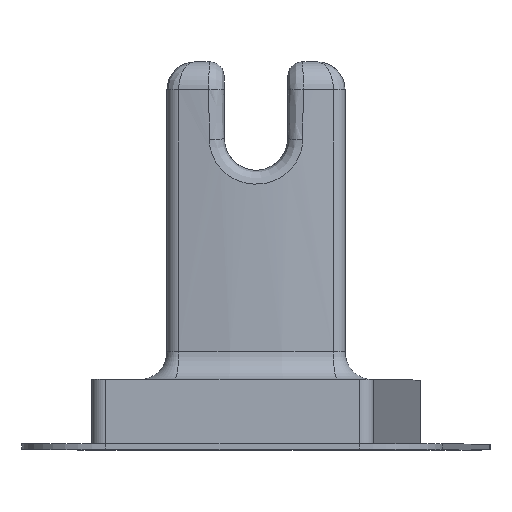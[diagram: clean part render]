
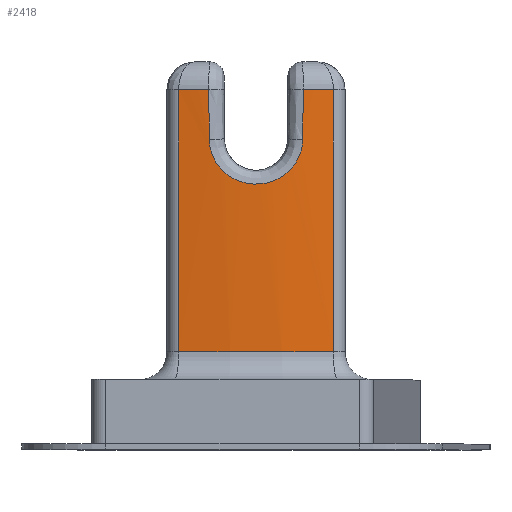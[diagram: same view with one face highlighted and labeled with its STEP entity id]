
A CAD part, top view. The second image highlights one B-rep face of the part: STEP entity #2418.
In plain terms, the highlighted cylindrical face has radius 34.167 mm (diameter 68.334 mm), a partial arc.
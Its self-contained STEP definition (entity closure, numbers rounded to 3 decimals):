
#103=CARTESIAN_POINT('',(3.38,3.5,3.332));
#104=CARTESIAN_POINT('',(3.369,2.324,3.333));
#105=CARTESIAN_POINT('',(3.358,1.148,3.335));
#106=CARTESIAN_POINT('',(3.348,-0.028,3.336));
#108=CARTESIAN_POINT('',(0.,3.5,-30.667));
#109=DIRECTION('',(0.,1.,0.));
#110=DIRECTION('',(0.099,0.,0.995));
#111=AXIS2_PLACEMENT_3D('',#108,#109,#110);
#113=DIRECTION('',(0.,-1.,0.));
#114=VECTOR('',#113,18.75);
#115=CARTESIAN_POINT('',(5.537,3.5,3.048));
#116=LINE('',#115,#114);
#117=CARTESIAN_POINT('',(0.,-15.25,-30.667));
#118=DIRECTION('',(0.,-1.,0.));
#119=DIRECTION('',(0.162,0.,0.987));
#120=AXIS2_PLACEMENT_3D('',#117,#118,#119);
#122=DIRECTION('',(0.,-1.,0.));
#123=VECTOR('',#122,18.75);
#124=CARTESIAN_POINT('',(-5.537,3.5,3.048));
#125=LINE('',#124,#123);
#126=CARTESIAN_POINT('',(0.,3.5,-30.667));
#127=DIRECTION('',(0.,1.,0.));
#128=DIRECTION('',(-0.162,0.,0.987));
#129=AXIS2_PLACEMENT_3D('',#126,#127,#128);
#131=CARTESIAN_POINT('',(-3.348,-0.028,
3.336));
#132=CARTESIAN_POINT('',(-3.358,1.148,3.335));
#133=CARTESIAN_POINT('',(-3.369,2.324,3.333));
#134=CARTESIAN_POINT('',(-3.38,3.5,3.332));
#136=CARTESIAN_POINT('',(3.348,-0.028,3.336));
#137=CARTESIAN_POINT('',(3.347,-0.156,3.336));
#138=CARTESIAN_POINT('',(3.329,-0.409,3.337));
#139=CARTESIAN_POINT('',(3.256,-0.787,3.345));
#140=CARTESIAN_POINT('',(3.137,-1.157,3.356));
#141=CARTESIAN_POINT('',(2.973,-1.51,3.371));
#142=CARTESIAN_POINT('',(2.767,-1.843,3.388));
#143=CARTESIAN_POINT('',(2.521,-2.151,3.407));
#144=CARTESIAN_POINT('',(2.235,-2.43,3.427));
#145=CARTESIAN_POINT('',(1.917,-2.674,3.447));
#146=CARTESIAN_POINT('',(1.57,-2.88,3.465));
#147=CARTESIAN_POINT('',(1.199,-3.043,3.48));
#148=CARTESIAN_POINT('',(0.809,-3.162,3.491));
#149=CARTESIAN_POINT('',(0.407,-3.234,3.498));
#150=CARTESIAN_POINT('',(-0.001,-3.258,
3.501));
#151=CARTESIAN_POINT('',(-0.409,-3.234,
3.498));
#152=CARTESIAN_POINT('',(-0.81,-3.162,
3.491));
#153=CARTESIAN_POINT('',(-1.198,-3.043,3.48));
#154=CARTESIAN_POINT('',(-1.569,-2.88,3.465));
#155=CARTESIAN_POINT('',(-1.916,-2.675,3.447));
#156=CARTESIAN_POINT('',(-2.233,-2.432,3.427));
#157=CARTESIAN_POINT('',(-2.516,-2.155,3.408));
#158=CARTESIAN_POINT('',(-2.762,-1.85,3.388));
#159=CARTESIAN_POINT('',(-2.969,-1.519,3.371));
#160=CARTESIAN_POINT('',(-3.133,-1.167,3.356));
#161=CARTESIAN_POINT('',(-3.253,-0.8,
3.345));
#162=CARTESIAN_POINT('',(-3.328,-0.416,
3.338));
#163=CARTESIAN_POINT('',(-3.347,-0.159,
3.336));
#164=CARTESIAN_POINT('',(-3.348,-0.028,
3.336));
#1842=VERTEX_POINT('',#103);
#1843=VERTEX_POINT('',#106);
#1846=VERTEX_POINT('',#164);
#1848=VERTEX_POINT('',#134);
#1858=CARTESIAN_POINT('',(-5.537,3.5,3.048));
#1859=VERTEX_POINT('',#1858);
#1862=CARTESIAN_POINT('',(5.537,3.5,3.048));
#1863=VERTEX_POINT('',#1862);
#1868=CARTESIAN_POINT('',(-5.537,-15.25,3.048));
#1869=VERTEX_POINT('',#1868);
#1870=CARTESIAN_POINT('',(5.537,-15.25,3.048));
#1871=VERTEX_POINT('',#1870);
#2396=CARTESIAN_POINT('',(0.,-22.25,-30.667));
#2397=DIRECTION('',(0.,1.,0.));
#2398=DIRECTION('',(0.,0.,-1.));
#2399=AXIS2_PLACEMENT_3D('',#2396,#2397,#2398);
#2400=CYLINDRICAL_SURFACE('',#2399,34.167);
#2401=ORIENTED_EDGE('',*,*,#2387,.F.);
#2403=ORIENTED_EDGE('',*,*,#2402,.T.);
#2405=ORIENTED_EDGE('',*,*,#2404,.T.);
#2407=ORIENTED_EDGE('',*,*,#2406,.T.);
#2409=ORIENTED_EDGE('',*,*,#2408,.F.);
#2411=ORIENTED_EDGE('',*,*,#2410,.T.);
#2413=ORIENTED_EDGE('',*,*,#2412,.F.);
#2415=ORIENTED_EDGE('',*,*,#2414,.F.);
#2416=EDGE_LOOP('',(#2401,#2403,#2405,#2407,#2409,#2411,#2413,#2415));
#2417=FACE_OUTER_BOUND('',#2416,.F.);
#2418=ADVANCED_FACE('',(#2417),#2400,.T.);
#107=B_SPLINE_CURVE_WITH_KNOTS('',3,(#103,#104,#105,#106),.UNSPECIFIED.,.F.,.F.,
(4,4),(0.,1.),.UNSPECIFIED.);
#112=CIRCLE('',#111,34.167);
#121=CIRCLE('',#120,34.167);
#130=CIRCLE('',#129,34.167);
#135=B_SPLINE_CURVE_WITH_KNOTS('',3,(#131,#132,#133,#134),.UNSPECIFIED.,.F.,.F.,
(4,4),(0.,1.),.UNSPECIFIED.);
#165=B_SPLINE_CURVE_WITH_KNOTS('',3,(#136,#137,#138,#139,#140,#141,#142,#143,
#144,#145,#146,#147,#148,#149,#150,#151,#152,#153,#154,#155,#156,#157,#158,#159,
#160,#161,#162,#163,#164),.UNSPECIFIED.,.F.,.F.,(4,1,1,1,1,1,1,1,1,1,1,1,1,1,1,
1,1,1,1,1,1,1,1,1,1,1,4),(0.,0.038,0.077,
0.115,0.154,0.192,0.231,
0.269,0.308,0.346,0.385,
0.423,0.462,0.5,0.538,0.577,
0.615,0.654,0.692,0.731,
0.769,0.808,0.846,0.885,
0.923,0.962,1.),.UNSPECIFIED.);
#2387=EDGE_CURVE('',#1842,#1843,#107,.T.);
#2402=EDGE_CURVE('',#1842,#1863,#112,.T.);
#2404=EDGE_CURVE('',#1863,#1871,#116,.T.);
#2406=EDGE_CURVE('',#1871,#1869,#121,.T.);
#2408=EDGE_CURVE('',#1859,#1869,#125,.T.);
#2410=EDGE_CURVE('',#1859,#1848,#130,.T.);
#2412=EDGE_CURVE('',#1846,#1848,#135,.T.);
#2414=EDGE_CURVE('',#1843,#1846,#165,.T.);
